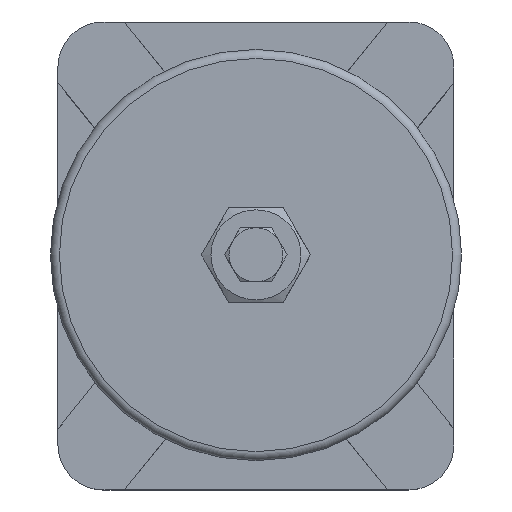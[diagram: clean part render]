
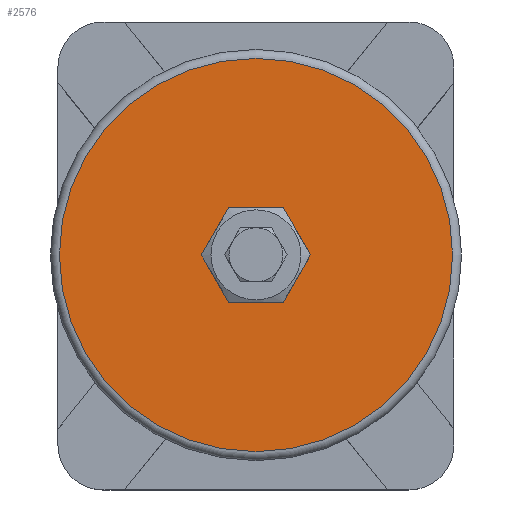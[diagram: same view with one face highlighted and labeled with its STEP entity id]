
A CAD part, top view. The second image highlights one B-rep face of the part: STEP entity #2576.
In plain terms, the highlighted planar face has unit normal (0, 0, 1).
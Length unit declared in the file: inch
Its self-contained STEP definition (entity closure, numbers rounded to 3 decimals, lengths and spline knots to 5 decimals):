
#133=FACE_BOUND('',#491,.T.);
#185=CIRCLE('',#2758,2.73119);
#186=CIRCLE('',#2760,0.38281);
#332=FACE_OUTER_BOUND('',#490,.T.);
#490=EDGE_LOOP('',(#1707));
#491=EDGE_LOOP('',(#1708));
#1048=VERTEX_POINT('',#3756);
#1049=VERTEX_POINT('',#3759);
#1315=EDGE_CURVE('',#1048,#1048,#185,.T.);
#1316=EDGE_CURVE('',#1049,#1049,#186,.T.);
#1707=ORIENTED_EDGE('',*,*,#1315,.F.);
#1708=ORIENTED_EDGE('',*,*,#1316,.F.);
#2319=PLANE('',#2759);
#2576=ADVANCED_FACE('',(#332,#133),#2319,.T.);
#2758=AXIS2_PLACEMENT_3D('',#3757,#3075,#3076);
#2759=AXIS2_PLACEMENT_3D('',#3758,#3077,#3078);
#2760=AXIS2_PLACEMENT_3D('',#3760,#3079,#3080);
#3075=DIRECTION('center_axis',(0.,0.,
-1.));
#3076=DIRECTION('ref_axis',(-1.,0.,0.));
#3077=DIRECTION('center_axis',(0.,0.,
1.));
#3078=DIRECTION('ref_axis',(1.,0.,0.));
#3079=DIRECTION('center_axis',(0.,0.,
1.));
#3080=DIRECTION('ref_axis',(1.,0.,0.));
#3756=CARTESIAN_POINT('',(2.73188,0.,8.125));
#3757=CARTESIAN_POINT('Origin',(0.00069,0.,
8.125));
#3758=CARTESIAN_POINT('Origin',(1.6296,0.,8.125));
#3759=CARTESIAN_POINT('',(0.3835,0.,8.125));
#3760=CARTESIAN_POINT('Origin',(0.00069,0.,
8.125));
